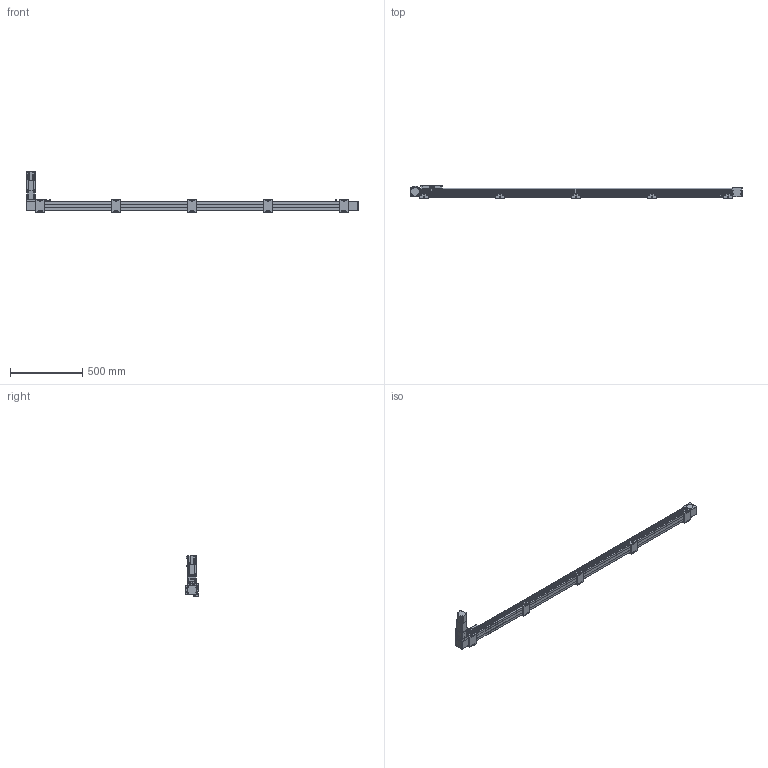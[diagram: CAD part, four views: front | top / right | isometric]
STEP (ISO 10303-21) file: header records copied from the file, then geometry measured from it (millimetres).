
FILE_DESCRIPTION(/* description */ ('STEP AP203'),/* implementation_level */ '2;1');
FILE_NAME(/* name */ 'SK60-P13-S2000-BL-T40-C1-N(0)',/* time_stamp */ '2023-04-06T03:37:37+02:00',/* author */ ('License CC BY-ND 4.0'),/* organization */ ('CADENAS'),/* preprocessor_version */ 'ST-DEVELOPER v19.3',/* originating_system */ 'PARTsolutions',/* authorisation */ ' ');
FILE_SCHEMA (('CONFIG_CONTROL_DESIGN'));
Length unit declared in the file: millimetre
Products named in the file (11): SK60-P13-S2000-BL-T40-C1-N(0); PSC140-sensor; SK60-S450_seat; SK60-S450-BL-C1_slider; SK60_body3; SK60_body6; SK60-BL_body2; T40-p1; SK60_body5; SK60_body4; SK60-S2000-BL-C1_body
Assembly tree (20 placements, depth 2):
  SK60-P13-S2000-BL-T40-C1-N(0)
    PSC140-sensor  x3
    SK60-S450_seat  x5
    SK60-S450-BL-C1_slider
    SK60_body3  x3
    SK60_body6  x2
    SK60-BL_body2  x2
    T40-p1
    SK60_body5
    SK60_body4
    SK60-S2000-BL-C1_body
Bounding box: 2300 x 90 x 278.2 mm (x, y, z)
Volume: 8458100.3 mm3; surface area: 1061988 mm2
Topology: 20 solids, 24 shells, 966 faces, 2403 edges, 1586 vertices
Faces by surface type: plane 616, cylinder 314, cone 34, torus 2
Full cylindrical faces by diameter (mm): 2.8 x3, 3.3 x4, 4.2 x8, 4.5 x26, 4.6 x3, 4.917 x28, 5 x2, 5.478 x4, 5.5 x31, 6.5 x10, 8 x4, 8.5 x4, 9.988 x4, 10 x20, 13.556 x1, 14 x1, 14.586 x1, 19.692 x1, 38.432 x2, 43 x1, 44 x3, 47 x2, 50 x2
Entity records: 19395 total; most frequent: DIRECTION 3298, CARTESIAN_POINT 3292, ORIENTED_EDGE 3050, EDGE_CURVE 1525, AXIS2_PLACEMENT_3D 1103, LINE 1092, VECTOR 1092, VERTEX_POINT 1077
